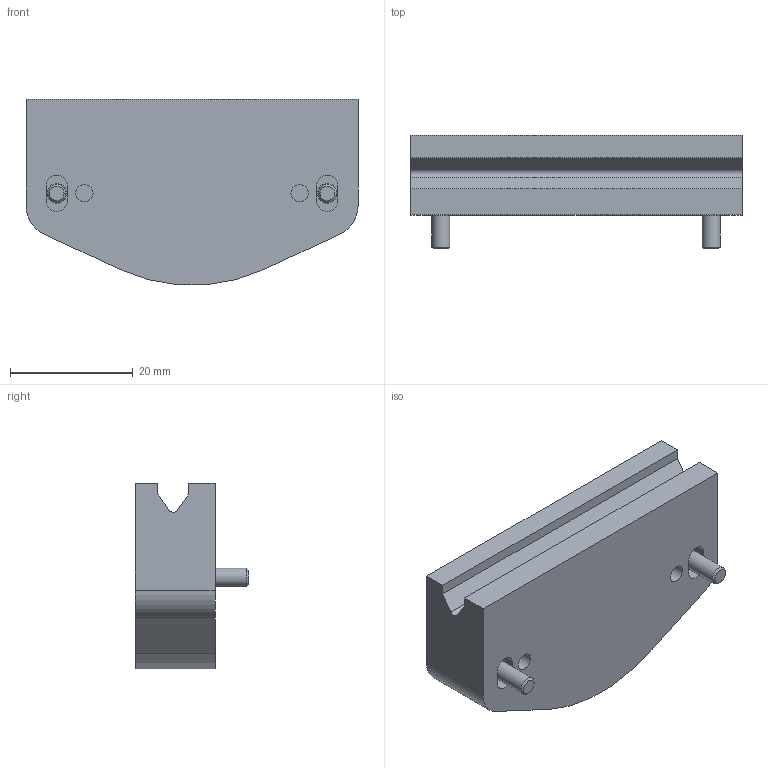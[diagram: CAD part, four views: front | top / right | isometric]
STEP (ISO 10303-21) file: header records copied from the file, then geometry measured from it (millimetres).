
FILE_DESCRIPTION( ( 'STEP AP203' ), '1' );
FILE_NAME( 'p:/temp/worker_52/temp/exporttempdir_2192_338_ygKAK/format_1/CW265-B.stp', '2021-09-29T07:51:45', ( 'License CC BY-ND 4.0' ), ( 'CADENAS' ), ' ', 'PARTsolutions', ' ' );
FILE_SCHEMA( ( 'CONFIG_CONTROL_DESIGN' ) );
Length unit declared in the file: millimetre
Products named in the file (1): _CW265-B
Bounding box: 54 x 18.5 x 30.15 mm (x, y, z)
Volume: 17144.5 mm3; surface area: 6127.9 mm2
Topology: 1 solids, 1 shells, 84 faces, 204 edges, 136 vertices
Faces by surface type: plane 58, cylinder 20, cone 4, sphere 2
Full cylindrical faces by diameter (mm): 2.8 x2, 3 x2, 3.2 x2, 6 x2
Entity records: 2398 total; most frequent: DIRECTION 424, CARTESIAN_POINT 399, ORIENTED_EDGE 368, EDGE_CURVE 184, AXIS2_PLACEMENT_3D 155, VERTEX_POINT 130, LINE 114, VECTOR 114
